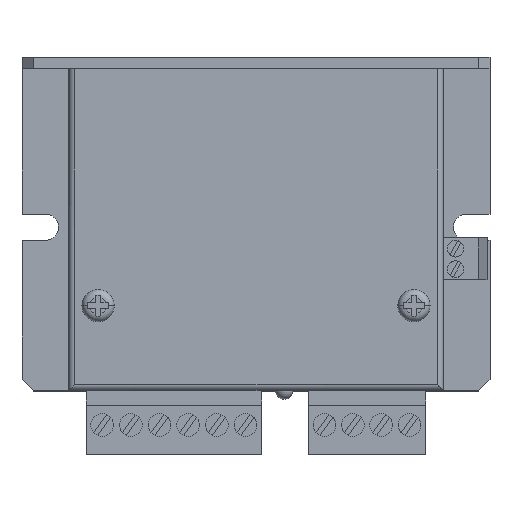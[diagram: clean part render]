
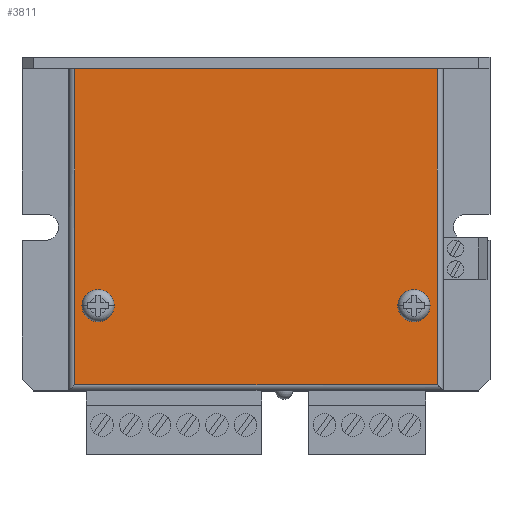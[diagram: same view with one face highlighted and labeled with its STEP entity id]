
A CAD part, top view. The second image highlights one B-rep face of the part: STEP entity #3811.
In plain terms, the highlighted planar face has unit normal (0, 0, 1).
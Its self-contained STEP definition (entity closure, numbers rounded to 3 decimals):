
#778 = CARTESIAN_POINT ( 'NONE',  ( -29.75, -13., 11.3 ) ) ;
#794 = CARTESIAN_POINT ( 'NONE',  ( 24.25, -13., 11.3 ) ) ;
#795 = CARTESIAN_POINT ( 'NONE',  ( 29.75, -13., 11.3 ) ) ;
#799 = CARTESIAN_POINT ( 'NONE',  ( -24.25, -13., 11.3 ) ) ;
#1230 = VERTEX_POINT ( 'NONE', #778 ) ;
#1231 = VERTEX_POINT ( 'NONE', #799 ) ;
#1235 = VERTEX_POINT ( 'NONE', #795 ) ;
#1236 = VERTEX_POINT ( 'NONE', #794 ) ;
#1331 = VERTEX_POINT ( 'NONE', #4028 ) ;
#1332 = VERTEX_POINT ( 'NONE', #4029 ) ;
#1333 = VERTEX_POINT ( 'NONE', #4022 ) ;
#1339 = VERTEX_POINT ( 'NONE', #4030 ) ;
#1778 = VECTOR ( 'NONE', #6738, 1000. ) ;
#1780 = LINE ( 'NONE', #6739, #1789 ) ;
#1783 = LINE ( 'NONE', #6732, #1778 ) ;
#1789 = VECTOR ( 'NONE', #6742, 1000. ) ;
#1806 = LINE ( 'NONE', #6747, #1813 ) ;
#1807 = CIRCLE ( 'NONE', #12729, 2.75 ) ;
#1813 = VECTOR ( 'NONE', #6757, 1000. ) ;
#1827 = LINE ( 'NONE', #6774, #1829 ) ;
#1829 = VECTOR ( 'NONE', #6775, 1000. ) ;
#1831 = CIRCLE ( 'NONE', #12731, 2.75 ) ;
#3811 = ADVANCED_FACE ( 'NONE', ( #13624, #13620, #13628 ), #10227, .T. ) ;
#4022 = CARTESIAN_POINT ( 'NONE',  ( 31., -26.5, 11.3 ) ) ;
#4028 = CARTESIAN_POINT ( 'NONE',  ( -31., 27.5, 11.3 ) ) ;
#4029 = CARTESIAN_POINT ( 'NONE',  ( -31., -26.5, 11.3 ) ) ;
#4030 = CARTESIAN_POINT ( 'NONE',  ( 31., 27.5, 11.3 ) ) ;
#4535 = ORIENTED_EDGE ( 'NONE', *, *, #13310, .F. ) ;
#4536 = ORIENTED_EDGE ( 'NONE', *, *, #13116, .F. ) ;
#4537 = ORIENTED_EDGE ( 'NONE', *, *, #13313, .T. ) ;
#4538 = ORIENTED_EDGE ( 'NONE', *, *, #13306, .T. ) ;
#4539 = ORIENTED_EDGE ( 'NONE', *, *, #13304, .T. ) ;
#4540 = ORIENTED_EDGE ( 'NONE', *, *, #13320, .T. ) ;
#4541 = ORIENTED_EDGE ( 'NONE', *, *, #13318, .F. ) ;
#4542 = ORIENTED_EDGE ( 'NONE', *, *, #13233, .F. ) ;
#5320 = EDGE_LOOP ( 'NONE', ( #4535, #4536 ) ) ;
#5324 = EDGE_LOOP ( 'NONE', ( #4541, #4542 ) ) ;
#5326 = EDGE_LOOP ( 'NONE', ( #4537, #4538, #4539, #4540 ) ) ;
#5933 = CIRCLE ( 'NONE', #12708, 2.75 ) ;
#6082 = CIRCLE ( 'NONE', #12723, 2.75 ) ;
#6400 = CARTESIAN_POINT ( 'NONE',  ( -27., -13., 11.3 ) ) ;
#6408 = DIRECTION ( 'NONE',  ( 0., 0., 1. ) ) ;
#6409 = DIRECTION ( 'NONE',  ( 1., 0., 0. ) ) ;
#6587 = CARTESIAN_POINT ( 'NONE',  ( 27., -13., 11.3 ) ) ;
#6589 = DIRECTION ( 'NONE',  ( 0., 0., 1. ) ) ;
#6590 = DIRECTION ( 'NONE',  ( -1., 0., 0. ) ) ;
#6732 = CARTESIAN_POINT ( 'NONE',  ( 32., -26.5, 11.3 ) ) ;
#6738 = DIRECTION ( 'NONE',  ( 1., 0., 0. ) ) ;
#6739 = CARTESIAN_POINT ( 'NONE',  ( -31., -27.5, 11.3 ) ) ;
#6742 = DIRECTION ( 'NONE',  ( 0., -1., 0. ) ) ;
#6747 = CARTESIAN_POINT ( 'NONE',  ( -32., 27.5, 11.3 ) ) ;
#6749 = CARTESIAN_POINT ( 'NONE',  ( -27., -13., 11.3 ) ) ;
#6750 = DIRECTION ( 'NONE',  ( 0., 0., 1. ) ) ;
#6751 = DIRECTION ( 'NONE',  ( 1., 0., 0. ) ) ;
#6757 = DIRECTION ( 'NONE',  ( -1., 0., 0. ) ) ;
#6768 = CARTESIAN_POINT ( 'NONE',  ( 27., -13., 11.3 ) ) ;
#6769 = DIRECTION ( 'NONE',  ( 0., 0., 1. ) ) ;
#6770 = DIRECTION ( 'NONE',  ( -1., 0., 0. ) ) ;
#6774 = CARTESIAN_POINT ( 'NONE',  ( 31., 27.5, 11.3 ) ) ;
#6775 = DIRECTION ( 'NONE',  ( 0., 1., 0. ) ) ;
#10212 = DIRECTION ( 'NONE',  ( 0., 0., 1. ) ) ;
#10227 = PLANE ( 'NONE',  #12277 ) ;
#11227 = DIRECTION ( 'NONE',  ( 1., 0., 0. ) ) ;
#11232 = CARTESIAN_POINT ( 'NONE',  ( -32., -27.5, 11.3 ) ) ;
#12277 = AXIS2_PLACEMENT_3D ( 'NONE', #11232, #10212, #11227 ) ;
#12708 = AXIS2_PLACEMENT_3D ( 'NONE', #6400, #6408, #6409 ) ;
#12723 = AXIS2_PLACEMENT_3D ( 'NONE', #6587, #6589, #6590 ) ;
#12729 = AXIS2_PLACEMENT_3D ( 'NONE', #6749, #6750, #6751 ) ;
#12731 = AXIS2_PLACEMENT_3D ( 'NONE', #6768, #6769, #6770 ) ;
#13116 = EDGE_CURVE ( 'NONE', #1231, #1230, #5933, .T. ) ;
#13233 = EDGE_CURVE ( 'NONE', #1235, #1236, #6082, .T. ) ;
#13304 = EDGE_CURVE ( 'NONE', #1332, #1333, #1783, .T. ) ;
#13306 = EDGE_CURVE ( 'NONE', #1331, #1332, #1780, .T. ) ;
#13310 = EDGE_CURVE ( 'NONE', #1230, #1231, #1807, .T. ) ;
#13313 = EDGE_CURVE ( 'NONE', #1339, #1331, #1806, .T. ) ;
#13318 = EDGE_CURVE ( 'NONE', #1236, #1235, #1831, .T. ) ;
#13320 = EDGE_CURVE ( 'NONE', #1333, #1339, #1827, .T. ) ;
#13620 = FACE_OUTER_BOUND ( 'NONE', #5326, .T. ) ;
#13624 = FACE_BOUND ( 'NONE', #5320, .T. ) ;
#13628 = FACE_BOUND ( 'NONE', #5324, .T. ) ;
